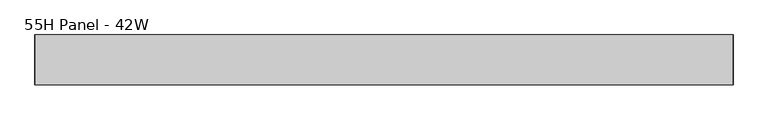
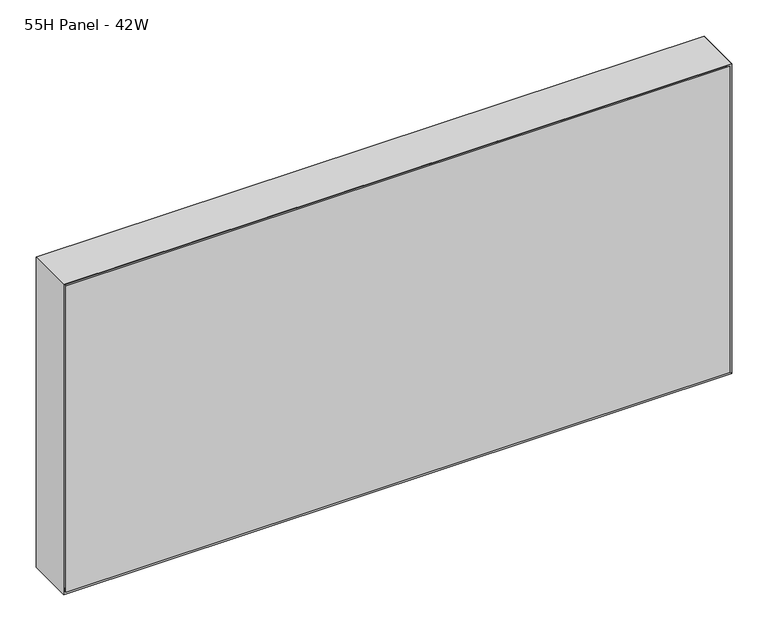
"""IFC4 building model written with IfcOpenShell, lengths in millimetres: furniture geometry, Steelcase - Montage - Frame - 20H - Enhanced Standard - Single Stack-On : 55H Panel - 42W."""

from ifc_helpers import new_model, si_unit, frame, origin, place, context, project, spatial, polyline, outline, extrude, faceted_brep, source, transform, mapped, element, save


def furniture_55h_panel_42w_6255aaf3(model_context):
    return source(origin(), model_context, "Body", "SolidModel", [
        faceted_brep([(1057.2750027, 31.7500194, 1912.9374516), (9.5250028, 31.7500194, 1912.9374516), (9.5250028, 31.7500194, 1408.1125), (1057.2750027, 31.7500194, 1408.1125), (1063.625, 38.1000194, 1919.2874516), (1063.625, 38.1000194, 1401.7625), (3.175, 38.1000194, 1401.7625), (3.175, 38.1000194, 1919.2874516)], [[[0, 1, 2, 3]], [[4, 5, 6, 7]], [[4, 0, 3, 5]], [[5, 3, 2, 6]], [[6, 2, 1, 7]], [[7, 1, 0, 4]]]),
        faceted_brep([(1057.2750027, -31.7500194, 1912.9374516), (1057.2750027, -31.7500194, 1408.1125), (9.5250028, -31.7500194, 1408.1125), (9.5250028, -31.7500194, 1912.9374516), (1063.625, -38.1000194, 1919.2874516), (3.175, -38.1000194, 1919.2874516), (3.175, -38.1000194, 1401.7625), (1063.625, -38.1000194, 1401.7625)], [[[0, 1, 2, 3]], [[4, 5, 6, 7]], [[4, 7, 1, 0]], [[7, 6, 2, 1]], [[6, 5, 3, 2]], [[5, 4, 0, 3]]]),
        faceted_brep([(1066.8, -38.1000015, 1398.5875), (1066.8, 38.1000015, 1398.5875), (1066.8, 38.1000015, 1922.4624516), (1066.8, -38.1000106, 1922.4624515), (0.0, 38.1000015, 1398.5875), (0.0, -38.1000015, 1398.5875), (0.0, -38.1000015, 1922.4624516), (0.0, 38.1000015, 1922.4624516), (6.3500484, 31.749953, 1404.9375484), (1060.4499879, 31.749953, 1404.9375484), (6.35, -31.749953, 1404.9375484), (1060.4499879, -31.749953, 1404.9375484), (6.3500165, 31.749985, 1916.112435), (6.3500006, -31.7500009, 1916.1124031), (1060.4499879, -31.7499979, 1916.1124031), (1060.4499879, 31.7499889, 1916.1124394)], [[[0, 1, 2, 3]], [[4, 5, 6, 7]], [[1, 0, 5, 4]], [[1, 4, 8, 9]], [[9, 8, 10, 11]], [[5, 0, 11, 10]], [[4, 7, 12, 8]], [[6, 5, 10, 13]], [[10, 8, 12, 13]], [[9, 11, 14, 15]], [[0, 3, 14, 11]], [[2, 1, 9, 15]], [[3, 2, 15, 14]], [[7, 6, 13, 12]]]),
        faceted_brep([(1066.8, -38.1000015, 1922.4624516), (0.0, -38.1000015, 1922.4624516), (6.3500484, -31.749953, 1916.1124031), (1060.4499516, -31.749953, 1916.1124031), (6.3500484, 31.749953, 1916.1124031), (1060.4499516, 31.749953, 1916.1124031), (0.0, 38.1000015, 1922.4624516), (1066.8, 38.1000015, 1922.4624516)], [[[0, 1, 2, 3]], [[3, 2, 4, 5]], [[6, 7, 5, 4]], [[1, 0, 7, 6]], [[2, 1, 6, 4]], [[0, 3, 5, 7]]]),
        extrude(outline(polyline([(1060.4499879, 31.7500016), (1060.4499879, -31.7499985), (6.35, -31.7499985), (6.35, 31.7500016), (1060.4499879, 31.7500016)])), frame((0.0, 0.0, 1404.9327145), z_axis=(0.0, 0.0, 1.0), x_axis=(1.0, 0.0, 0.0)), (0.0, 0.0, 1.0), 511.1796886),
    ])


if __name__ == "__main__":
    model = new_model("IFC4")
    model_context = context("Model", 3, world=origin())
    ifc_project = project(units=[si_unit("LENGTHUNIT", "METRE", prefix="MILLI")], contexts=[model_context])
    site = spatial("IfcSite", under=ifc_project)
    building = spatial("IfcBuilding", under=site)
    placement = place(None, origin())
    furniture_55h_panel_42w_shape = furniture_55h_panel_42w_6255aaf3(model_context)
    element("IfcFurniture", 1, ObjectType="Steelcase - Montage - Frame - 20H - Enhanced Standard - Single Stack-On : 55H Panel - 42W", at=placement, inside=building, context=model_context, shape_type="MappedRepresentation", body=[
        mapped(furniture_55h_panel_42w_shape, transform((0.0, 0.0, 0.0), x_axis=(1.0, 0.0, 0.0), y_axis=(0.0, 1.0, 0.0), z_axis=(0.0, 0.0, 1.0))),
    ])
    save(model, "model.ifc")
